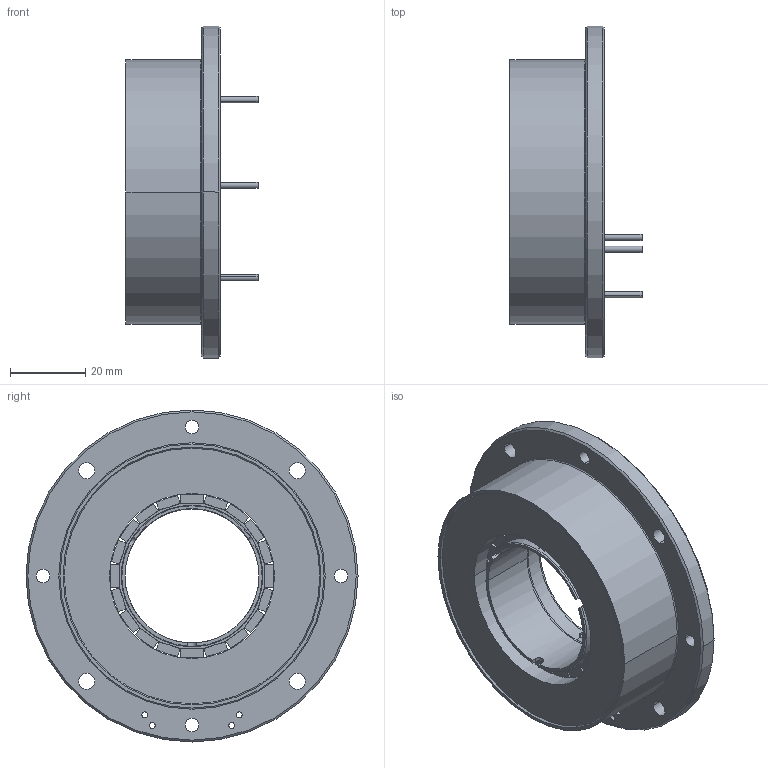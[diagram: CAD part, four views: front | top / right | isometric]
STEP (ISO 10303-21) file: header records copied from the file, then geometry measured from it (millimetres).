
FILE_DESCRIPTION((''),'2;1');
FILE_NAME('9112533_SW0001','2024-02-14T13:47:35',('MMAGVISI'),(''),'CREO PARAMETRIC BY PTC INC, 2023092','CREO PARAMETRIC BY PTC INC, 2023092','');
FILE_SCHEMA(('CONFIG_CONTROL_DESIGN','SHAPE_APPEARANCE_LAYERS_GROUPS'));
Length unit declared in the file: millimetre
Products named in the file (1): 9112533_SW0001
Bounding box: 35 x 88 x 88 mm (x, y, z)
Volume: 72195.1 mm3; surface area: 25193.7 mm2
Topology: 2 solids, 2 shells, 398 faces, 1072 edges, 684 vertices
Faces by surface type: plane 265, cylinder 69, torus 46, cone 18
Entity records: 17142 total; most frequent: CARTESIAN_POINT 4373, ORIENTED_EDGE 2144, DIRECTION 1676, PRESENTATION_STYLE_ASSIGNMENT 1074, STYLED_ITEM 1074, CURVE_STYLE 1072, EDGE_CURVE 1072, VERTEX_POINT 684
